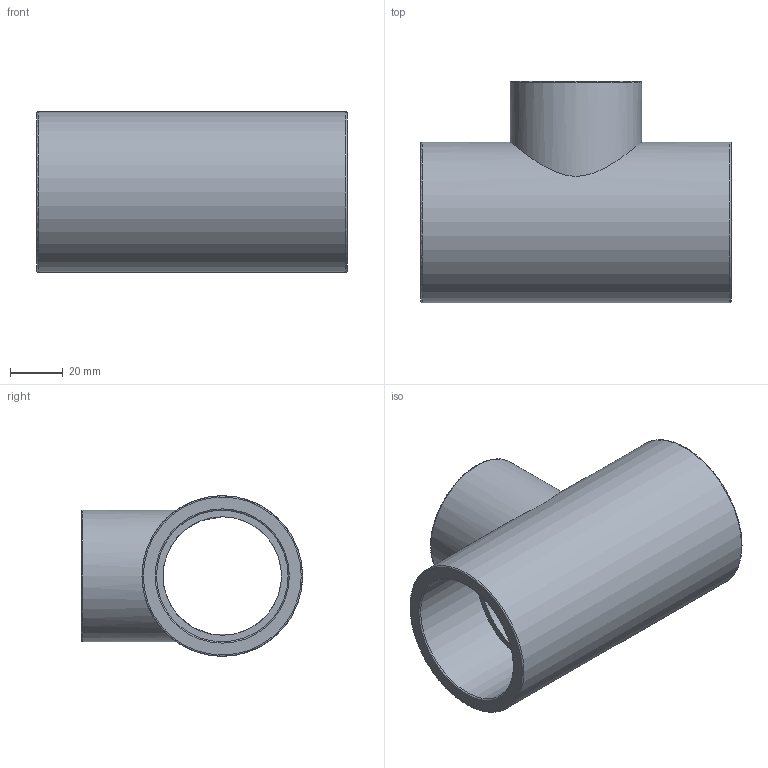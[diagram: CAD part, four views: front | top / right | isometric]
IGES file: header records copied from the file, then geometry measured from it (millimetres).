
Global section: file name: 051400050040.ipt; native system: Autodesk Inventor 2015; preprocessor: unknown; author: KIM; date: 20171207.165221; units: millimetre
Bounding box: 118 x 84 x 61 mm (x, y, z)
Volume: 144951.6 mm3; surface area: 49218.4 mm2
Topology: 1 solids, 1 shells, 19 faces, 58 edges, 44 vertices
Faces by surface type: revolution 11, plane 6, cylinder 2
Full cylindrical faces by diameter (mm): 50 x1, 61 x1
